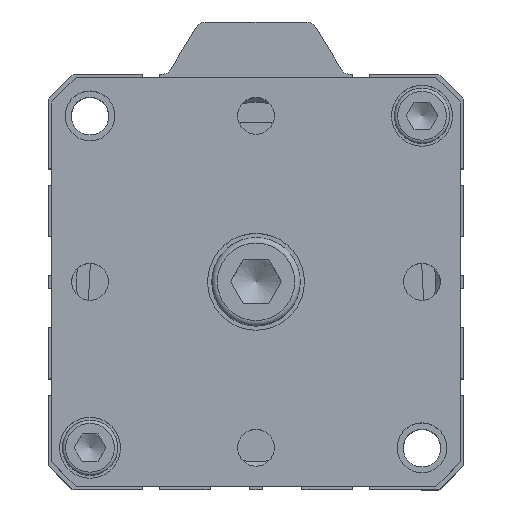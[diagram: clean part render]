
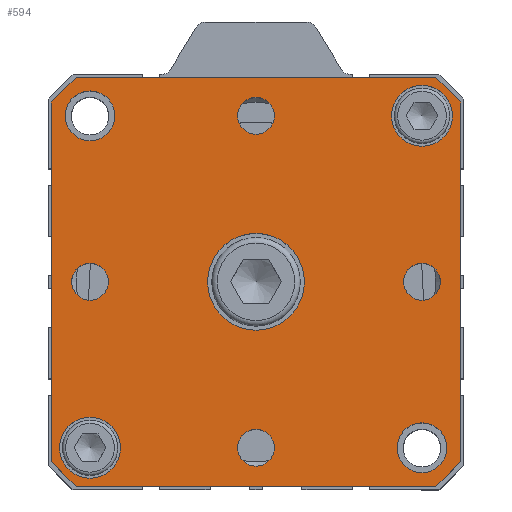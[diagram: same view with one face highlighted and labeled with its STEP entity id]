
A CAD part, top view. The second image highlights one B-rep face of the part: STEP entity #594.
In plain terms, the highlighted planar face has unit normal (0, 0, 1).
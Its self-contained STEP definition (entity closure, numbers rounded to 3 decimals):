
#196=CARTESIAN_POINT('',(32.859,35.684,75.5));
#197=VERTEX_POINT('',#196);
#198=CARTESIAN_POINT('',(37.359,31.184,75.5));
#199=VERTEX_POINT('',#198);
#200=CARTESIAN_POINT('',(32.859,35.684,75.5));
#201=DIRECTION('',(0.707,-0.707,0.0));
#202=VECTOR('',#201,6.364);
#203=LINE('',#200,#202);
#204=EDGE_CURVE('',#197,#199,#203,.T.);
#383=CARTESIAN_POINT('',(37.359,-33.816,75.5));
#384=VERTEX_POINT('',#383);
#385=CARTESIAN_POINT('',(37.359,31.184,75.5));
#386=DIRECTION('',(0.0,-1.0,0.0));
#387=VECTOR('',#386,65.);
#388=LINE('',#385,#387);
#389=EDGE_CURVE('',#199,#384,#388,.T.);
#406=CARTESIAN_POINT('',(32.859,-38.316,75.5));
#407=VERTEX_POINT('',#406);
#408=CARTESIAN_POINT('',(37.359,-33.816,75.5));
#409=DIRECTION('',(-0.707,-0.707,0.0));
#410=VECTOR('',#409,6.364);
#411=LINE('',#408,#410);
#412=EDGE_CURVE('',#384,#407,#411,.T.);
#430=CARTESIAN_POINT('',(-36.641,31.184,75.5));
#431=VERTEX_POINT('',#430);
#432=CARTESIAN_POINT('',(-32.141,35.684,75.5));
#433=VERTEX_POINT('',#432);
#434=CARTESIAN_POINT('',(-36.641,31.184,75.5));
#435=DIRECTION('',(0.707,0.707,0.0));
#436=VECTOR('',#435,6.364);
#437=LINE('',#434,#436);
#438=EDGE_CURVE('',#431,#433,#437,.T.);
#456=CARTESIAN_POINT('',(0.359,-1.316,75.5));
#457=DIRECTION('',(0.0,0.0,1.0));
#458=DIRECTION('',(1.0,0.0,0.0));
#459=AXIS2_PLACEMENT_3D('',#456,#457,#458);
#460=PLANE('',#459);
#461=ORIENTED_EDGE('',*,*,#204,.F.);
#462=CARTESIAN_POINT('',(-32.141,35.684,75.5));
#463=DIRECTION('',(1.0,0.0,0.0));
#464=VECTOR('',#463,65.0);
#465=LINE('',#462,#464);
#466=EDGE_CURVE('',#433,#197,#465,.T.);
#467=ORIENTED_EDGE('',*,*,#466,.F.);
#468=ORIENTED_EDGE('',*,*,#438,.F.);
#469=CARTESIAN_POINT('',(-36.641,-33.816,75.5));
#470=VERTEX_POINT('',#469);
#471=CARTESIAN_POINT('',(-36.641,-33.816,75.5));
#472=DIRECTION('',(0.0,1.0,0.0));
#473=VECTOR('',#472,65.0);
#474=LINE('',#471,#473);
#475=EDGE_CURVE('',#470,#431,#474,.T.);
#476=ORIENTED_EDGE('',*,*,#475,.F.);
#477=CARTESIAN_POINT('',(-32.141,-38.316,75.5));
#478=VERTEX_POINT('',#477);
#479=CARTESIAN_POINT('',(-32.141,-38.316,75.5));
#480=DIRECTION('',(-0.707,0.707,0.0));
#481=VECTOR('',#480,6.364);
#482=LINE('',#479,#481);
#483=EDGE_CURVE('',#478,#470,#482,.T.);
#484=ORIENTED_EDGE('',*,*,#483,.F.);
#485=CARTESIAN_POINT('',(32.859,-38.316,75.5));
#486=DIRECTION('',(-1.0,0.0,0.0));
#487=VECTOR('',#486,65.0);
#488=LINE('',#485,#487);
#489=EDGE_CURVE('',#407,#478,#488,.T.);
#490=ORIENTED_EDGE('',*,*,#489,.F.);
#491=ORIENTED_EDGE('',*,*,#412,.F.);
#492=ORIENTED_EDGE('',*,*,#389,.F.);
#493=EDGE_LOOP('',(#461,#467,#468,#476,#484,#490,#491,#492));
#494=FACE_OUTER_BOUND('',#493,.T.);
#495=CARTESIAN_POINT('',(9.109,-1.316,75.5));
#496=VERTEX_POINT('',#495);
#497=CARTESIAN_POINT('',(0.359,-1.316,75.5));
#498=DIRECTION('',(0.0,0.0,-1.0));
#499=DIRECTION('',(1.0,0.0,0.0));
#500=AXIS2_PLACEMENT_3D('',#497,#498,#499);
#501=CIRCLE('',#500,8.75);
#502=EDGE_CURVE('',#496,#496,#501,.T.);
#503=ORIENTED_EDGE('',*,*,#502,.T.);
#504=EDGE_LOOP('',(#503));
#505=FACE_BOUND('',#504,.T.);
#506=CARTESIAN_POINT('',(-24.141,-31.316,75.5));
#507=VERTEX_POINT('',#506);
#508=CARTESIAN_POINT('',(-29.641,-31.316,75.5));
#509=DIRECTION('',(0.0,0.0,-1.0));
#510=DIRECTION('',(1.0,0.0,0.0));
#511=AXIS2_PLACEMENT_3D('',#508,#509,#510);
#512=CIRCLE('',#511,5.5);
#513=EDGE_CURVE('',#507,#507,#512,.T.);
#514=ORIENTED_EDGE('',*,*,#513,.T.);
#515=EDGE_LOOP('',(#514));
#516=FACE_BOUND('',#515,.T.);
#517=CARTESIAN_POINT('',(35.859,28.684,75.5));
#518=VERTEX_POINT('',#517);
#519=CARTESIAN_POINT('',(30.359,28.684,75.5));
#520=DIRECTION('',(0.0,0.0,-1.0));
#521=DIRECTION('',(1.0,0.0,0.0));
#522=AXIS2_PLACEMENT_3D('',#519,#520,#521);
#523=CIRCLE('',#522,5.5);
#524=EDGE_CURVE('',#518,#518,#523,.T.);
#525=ORIENTED_EDGE('',*,*,#524,.T.);
#526=EDGE_LOOP('',(#525));
#527=FACE_BOUND('',#526,.T.);
#528=CARTESIAN_POINT('',(33.682,-1.316,75.5));
#529=VERTEX_POINT('',#528);
#530=CARTESIAN_POINT('',(30.359,-1.316,75.5));
#531=DIRECTION('',(0.0,0.0,-1.0));
#532=DIRECTION('',(1.0,0.0,0.0));
#533=AXIS2_PLACEMENT_3D('',#530,#531,#532);
#534=CIRCLE('',#533,3.324);
#535=EDGE_CURVE('',#529,#529,#534,.T.);
#536=ORIENTED_EDGE('',*,*,#535,.T.);
#537=EDGE_LOOP('',(#536));
#538=FACE_BOUND('',#537,.T.);
#539=CARTESIAN_POINT('',(3.682,-31.316,75.5));
#540=VERTEX_POINT('',#539);
#541=CARTESIAN_POINT('',(0.359,-31.316,75.5));
#542=DIRECTION('',(0.0,0.0,-1.0));
#543=DIRECTION('',(1.0,0.0,0.0));
#544=AXIS2_PLACEMENT_3D('',#541,#542,#543);
#545=CIRCLE('',#544,3.324);
#546=EDGE_CURVE('',#540,#540,#545,.T.);
#547=ORIENTED_EDGE('',*,*,#546,.T.);
#548=EDGE_LOOP('',(#547));
#549=FACE_BOUND('',#548,.T.);
#550=CARTESIAN_POINT('',(-26.318,-1.316,75.5));
#551=VERTEX_POINT('',#550);
#552=CARTESIAN_POINT('',(-29.641,-1.316,75.5));
#553=DIRECTION('',(0.0,0.0,-1.0));
#554=DIRECTION('',(1.0,0.0,0.0));
#555=AXIS2_PLACEMENT_3D('',#552,#553,#554);
#556=CIRCLE('',#555,3.324);
#557=EDGE_CURVE('',#551,#551,#556,.T.);
#558=ORIENTED_EDGE('',*,*,#557,.T.);
#559=EDGE_LOOP('',(#558));
#560=FACE_BOUND('',#559,.T.);
#561=CARTESIAN_POINT('',(3.682,28.684,75.5));
#562=VERTEX_POINT('',#561);
#563=CARTESIAN_POINT('',(0.359,28.684,75.5));
#564=DIRECTION('',(0.0,0.0,-1.0));
#565=DIRECTION('',(1.0,0.0,0.0));
#566=AXIS2_PLACEMENT_3D('',#563,#564,#565);
#567=CIRCLE('',#566,3.324);
#568=EDGE_CURVE('',#562,#562,#567,.T.);
#569=ORIENTED_EDGE('',*,*,#568,.T.);
#570=EDGE_LOOP('',(#569));
#571=FACE_BOUND('',#570,.T.);
#572=CARTESIAN_POINT('',(34.859,-31.316,75.5));
#573=VERTEX_POINT('',#572);
#574=CARTESIAN_POINT('',(30.359,-31.316,75.5));
#575=DIRECTION('',(0.0,0.0,-1.0));
#576=DIRECTION('',(-1.0,0.0,0.0));
#577=AXIS2_PLACEMENT_3D('',#574,#575,#576);
#578=CIRCLE('',#577,4.5);
#579=EDGE_CURVE('',#573,#573,#578,.T.);
#580=ORIENTED_EDGE('',*,*,#579,.T.);
#581=EDGE_LOOP('',(#580));
#582=FACE_BOUND('',#581,.T.);
#583=CARTESIAN_POINT('',(-25.141,28.684,75.5));
#584=VERTEX_POINT('',#583);
#585=CARTESIAN_POINT('',(-29.641,28.684,75.5));
#586=DIRECTION('',(0.0,0.0,-1.0));
#587=DIRECTION('',(-1.0,0.0,0.0));
#588=AXIS2_PLACEMENT_3D('',#585,#586,#587);
#589=CIRCLE('',#588,4.5);
#590=EDGE_CURVE('',#584,#584,#589,.T.);
#591=ORIENTED_EDGE('',*,*,#590,.T.);
#592=EDGE_LOOP('',(#591));
#593=FACE_BOUND('',#592,.T.);
#594=ADVANCED_FACE('',(#494,#505,#516,#527,#538,#549,#560,#571,#582,#593),#460,.T.);
